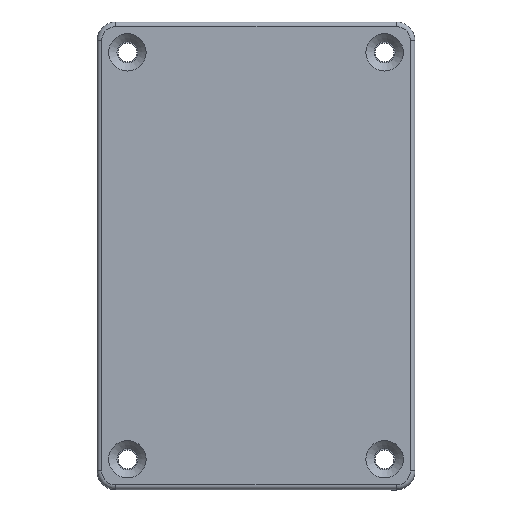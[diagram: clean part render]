
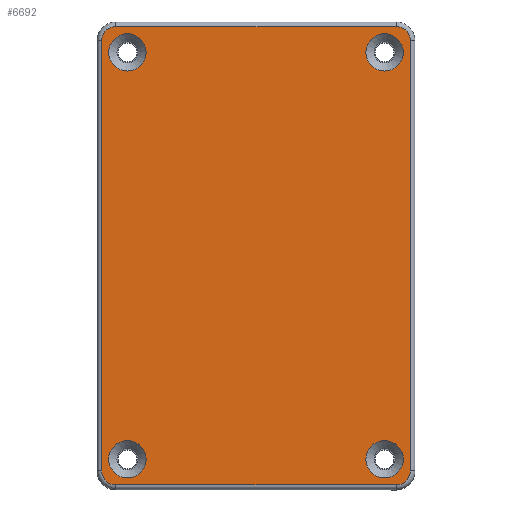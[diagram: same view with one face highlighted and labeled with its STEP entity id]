
A CAD part, top view. The second image highlights one B-rep face of the part: STEP entity #6692.
In plain terms, the highlighted planar face has unit normal (0, 0, 1) as drawn and (0, 0, -1) by its records, which use the part's own axes.
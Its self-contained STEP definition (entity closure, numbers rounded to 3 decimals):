
#77=FACE_BOUND('',#897,.T.);
#78=FACE_BOUND('',#898,.T.);
#79=FACE_BOUND('',#899,.T.);
#80=FACE_BOUND('',#900,.T.);
#150=PLANE('',#7543);
#481=FACE_OUTER_BOUND('',#896,.T.);
#896=EDGE_LOOP('',(#5632,#5633,#5634,#5635,#5636,#5637,#5638,#5639));
#897=EDGE_LOOP('',(#5640));
#898=EDGE_LOOP('',(#5641));
#899=EDGE_LOOP('',(#5642));
#900=EDGE_LOOP('',(#5643));
#1292=LINE('',#11516,#1760);
#1295=LINE('',#11531,#1763);
#1297=LINE('',#11543,#1765);
#1299=LINE('',#11555,#1767);
#1760=VECTOR('',#9438,10.);
#1763=VECTOR('',#9455,10.);
#1765=VECTOR('',#9469,10.);
#1767=VECTOR('',#9483,10.);
#2364=CIRCLE('',#7519,3.);
#2368=CIRCLE('',#7525,3.);
#2372=CIRCLE('',#7531,3.);
#2375=CIRCLE('',#7536,3.);
#2378=CIRCLE('',#7544,4.);
#2379=CIRCLE('',#7545,4.);
#2380=CIRCLE('',#7546,4.);
#2381=CIRCLE('',#7547,4.);
#2949=VERTEX_POINT('',#11513);
#2950=VERTEX_POINT('',#11515);
#2952=VERTEX_POINT('',#11521);
#2954=VERTEX_POINT('',#11527);
#2956=VERTEX_POINT('',#11533);
#2958=VERTEX_POINT('',#11539);
#2960=VERTEX_POINT('',#11545);
#2962=VERTEX_POINT('',#11551);
#2969=VERTEX_POINT('',#11578);
#2970=VERTEX_POINT('',#11580);
#2971=VERTEX_POINT('',#11582);
#2972=VERTEX_POINT('',#11584);
#3857=EDGE_CURVE('',#2949,#2950,#1292,.T.);
#3862=EDGE_CURVE('',#2950,#2952,#2364,.T.);
#3865=EDGE_CURVE('',#2952,#2954,#1295,.T.);
#3868=EDGE_CURVE('',#2954,#2956,#2368,.T.);
#3871=EDGE_CURVE('',#2956,#2958,#1297,.T.);
#3874=EDGE_CURVE('',#2958,#2960,#2372,.T.);
#3877=EDGE_CURVE('',#2960,#2962,#1299,.T.);
#3879=EDGE_CURVE('',#2962,#2949,#2375,.T.);
#3889=EDGE_CURVE('',#2969,#2969,#2378,.T.);
#3890=EDGE_CURVE('',#2970,#2970,#2379,.T.);
#3891=EDGE_CURVE('',#2971,#2971,#2380,.T.);
#3892=EDGE_CURVE('',#2972,#2972,#2381,.T.);
#5632=ORIENTED_EDGE('',*,*,#3857,.F.);
#5633=ORIENTED_EDGE('',*,*,#3879,.F.);
#5634=ORIENTED_EDGE('',*,*,#3877,.F.);
#5635=ORIENTED_EDGE('',*,*,#3874,.F.);
#5636=ORIENTED_EDGE('',*,*,#3871,.F.);
#5637=ORIENTED_EDGE('',*,*,#3868,.F.);
#5638=ORIENTED_EDGE('',*,*,#3865,.F.);
#5639=ORIENTED_EDGE('',*,*,#3862,.F.);
#5640=ORIENTED_EDGE('',*,*,#3889,.T.);
#5641=ORIENTED_EDGE('',*,*,#3890,.T.);
#5642=ORIENTED_EDGE('',*,*,#3891,.T.);
#5643=ORIENTED_EDGE('',*,*,#3892,.T.);
#6692=ADVANCED_FACE('',(#481,#77,#78,#79,#80),#150,.F.);
#7519=AXIS2_PLACEMENT_3D('',#11525,#9448,#9449);
#7525=AXIS2_PLACEMENT_3D('',#11537,#9462,#9463);
#7531=AXIS2_PLACEMENT_3D('',#11549,#9476,#9477);
#7536=AXIS2_PLACEMENT_3D('',#11558,#9488,#9489);
#7543=AXIS2_PLACEMENT_3D('',#11577,#9509,#9510);
#7544=AXIS2_PLACEMENT_3D('',#11579,#9511,#9512);
#7545=AXIS2_PLACEMENT_3D('',#11581,#9513,#9514);
#7546=AXIS2_PLACEMENT_3D('',#11583,#9515,#9516);
#7547=AXIS2_PLACEMENT_3D('',#11585,#9517,#9518);
#9438=DIRECTION('',(-1.,0.,0.));
#9448=DIRECTION('center_axis',(0.,0.,1.));
#9449=DIRECTION('ref_axis',(-0.707,0.707,0.));
#9455=DIRECTION('',(0.,-1.,0.));
#9462=DIRECTION('center_axis',(0.,0.,1.));
#9463=DIRECTION('ref_axis',(-0.707,-0.707,0.));
#9469=DIRECTION('',(1.,0.,0.));
#9476=DIRECTION('center_axis',(0.,0.,1.));
#9477=DIRECTION('ref_axis',(0.707,-0.707,0.));
#9483=DIRECTION('',(0.,1.,0.));
#9488=DIRECTION('center_axis',(0.,0.,1.));
#9489=DIRECTION('ref_axis',(0.707,0.707,0.));
#9509=DIRECTION('center_axis',(0.,0.,1.));
#9510=DIRECTION('ref_axis',(1.,0.,0.));
#9511=DIRECTION('center_axis',(0.,0.,1.));
#9512=DIRECTION('ref_axis',(-1.,0.,0.));
#9513=DIRECTION('center_axis',(0.,0.,1.));
#9514=DIRECTION('ref_axis',(-1.,0.,0.));
#9515=DIRECTION('center_axis',(0.,0.,1.));
#9516=DIRECTION('ref_axis',(-1.,0.,0.));
#9517=DIRECTION('center_axis',(0.,0.,1.));
#9518=DIRECTION('ref_axis',(-1.,0.,0.));
#11513=CARTESIAN_POINT('',(230.032,104.,0.));
#11515=CARTESIAN_POINT('',(170.032,104.,0.));
#11516=CARTESIAN_POINT('',(215.032,104.,0.));
#11521=CARTESIAN_POINT('',(167.032,101.,0.));
#11525=CARTESIAN_POINT('Origin',(170.032,101.,0.));
#11527=CARTESIAN_POINT('',(167.032,9.,0.));
#11531=CARTESIAN_POINT('',(167.032,78.,0.));
#11533=CARTESIAN_POINT('',(170.032,6.,0.));
#11537=CARTESIAN_POINT('Origin',(170.032,9.,0.));
#11539=CARTESIAN_POINT('',(230.032,6.,0.));
#11543=CARTESIAN_POINT('',(185.032,6.,0.));
#11545=CARTESIAN_POINT('',(233.032,9.,0.));
#11549=CARTESIAN_POINT('Origin',(230.032,9.,0.));
#11551=CARTESIAN_POINT('',(233.032,101.,0.));
#11555=CARTESIAN_POINT('',(233.032,32.,0.));
#11558=CARTESIAN_POINT('Origin',(230.032,101.,0.));
#11577=CARTESIAN_POINT('Origin',(200.032,55.,0.));
#11578=CARTESIAN_POINT('',(231.532,98.5,0.));
#11579=CARTESIAN_POINT('Origin',(227.532,98.5,0.));
#11580=CARTESIAN_POINT('',(231.532,11.5,0.));
#11581=CARTESIAN_POINT('Origin',(227.532,11.5,0.));
#11582=CARTESIAN_POINT('',(176.532,11.5,0.));
#11583=CARTESIAN_POINT('Origin',(172.532,11.5,0.));
#11584=CARTESIAN_POINT('',(176.532,98.5,0.));
#11585=CARTESIAN_POINT('Origin',(172.532,98.5,0.));
